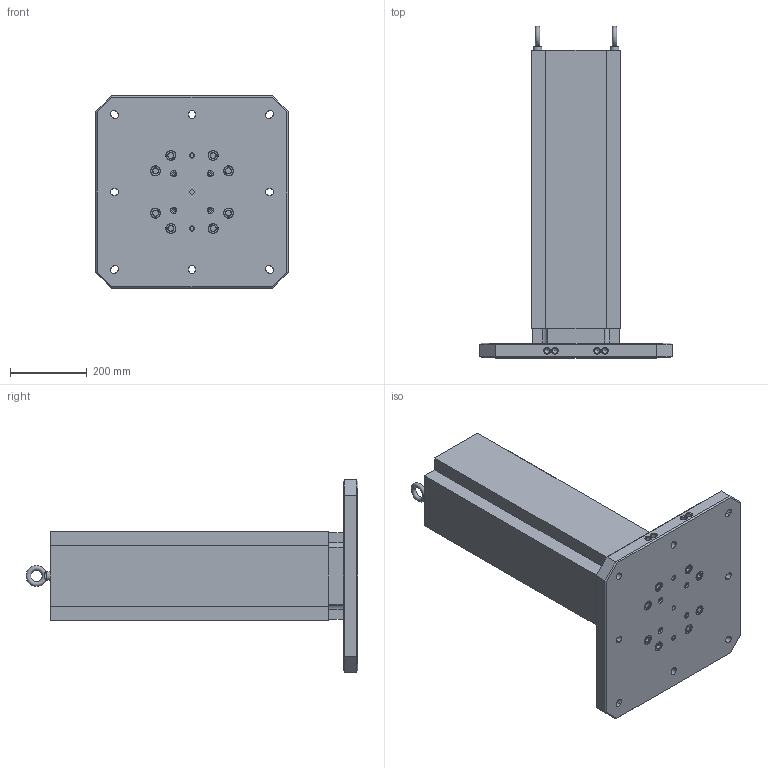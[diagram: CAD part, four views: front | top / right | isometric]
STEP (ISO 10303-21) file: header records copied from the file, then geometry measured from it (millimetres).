
FILE_DESCRIPTION (( 'STEP AP214' ), '1' );
FILE_NAME ('MTA-5004U-800_WEBSITE.step', '2025-08-11T12:58:40', ( '' ), ( '' ), 'SwSTEP 2.0', 'SolidWorks 2024', '' );
FILE_SCHEMA (( 'AUTOMOTIVE_DESIGN' ));
Length unit declared in the file: millimetre
Products named in the file (7): HW.76172_WEBSITE; HW.76452_dev_WEBSITE_91290A835; M12X24MM.EB (McM 3040T15)_WEBSITE_3040T15; RL96-14TC_WEBSITE; MT-4762A_WEBSITE_MT-4600A; MTA-5004U-800_WEBSITE; RL96-5004BUA_WEBSITE
Assembly tree (17 placements, depth 2):
  MTA-5004U-800_WEBSITE
    RL96-5004BUA_WEBSITE
    MT-4762A_WEBSITE_MT-4600A
    RL96-14TC_WEBSITE
    HW.76172_WEBSITE  x4
    M12X24MM.EB (McM 3040T15)_WEBSITE_3040T15  x2
    HW.76452_dev_WEBSITE_91290A835  x8
Bounding box: 500 x 862.88 x 500 mm (x, y, z)
Volume: 34210469.8 mm3; surface area: 1885326.5 mm2
Topology: 17 solids, 17 shells, 591 faces, 1296 edges, 798 vertices
Faces by surface type: plane 313, cylinder 162, cone 114, torus 2
Full cylindrical faces by diameter (mm): 5 x4, 6 x4, 6.6 x4, 8.5 x4, 10 x4, 10.025 x4, 10.2 x4, 11 x4, 12 x3, 14 x13, 16 x8, 16.02 x4, 17.5 x16, 23 x2, 24 x8, 26 x8
Entity records: 11767 total; most frequent: CARTESIAN_POINT 2017, DIRECTION 1914, ORIENTED_EDGE 1602, EDGE_CURVE 801, AXIS2_PLACEMENT_3D 718, EDGE_LOOP 596, VERTEX_POINT 571, LINE 478
